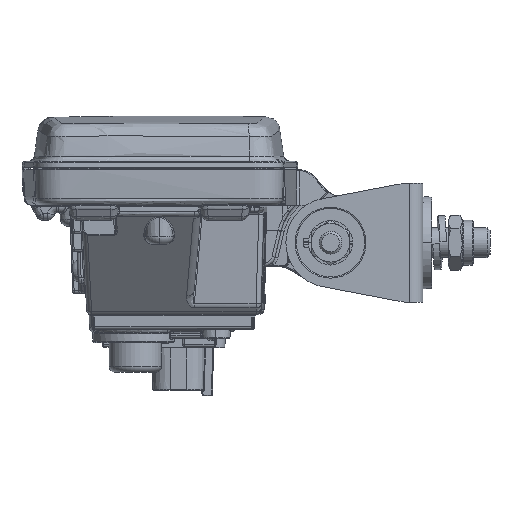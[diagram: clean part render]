
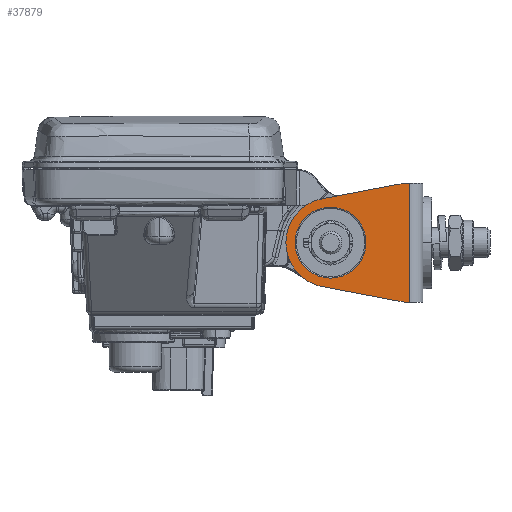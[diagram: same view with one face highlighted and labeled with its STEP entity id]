
A CAD part, left-side view. The second image highlights one B-rep face of the part: STEP entity #37879.
In plain terms, the highlighted planar face has unit normal (-1, 0, 0).
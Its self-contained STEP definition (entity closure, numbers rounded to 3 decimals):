
#37878=FACE_BOUND('',#37875,.T.) ;
#37389=VERTEX_POINT('',#37388) ;
#37396=VERTEX_POINT('',#37395) ;
#37822=VERTEX_POINT('',#37821) ;
#37824=VERTEX_POINT('',#37823) ;
#37831=VERTEX_POINT('',#37830) ;
#37838=VERTEX_POINT('',#37837) ;
#37845=VERTEX_POINT('',#37844) ;
#37852=VERTEX_POINT('',#37851) ;
#37859=VERTEX_POINT('',#37858) ;
#37819=VECTOR('Line Direction',#37818,1.) ;
#37828=VECTOR('Line Direction',#37827,1.) ;
#37849=VECTOR('Line Direction',#37848,1.) ;
#37856=VECTOR('Line Direction',#37855,1.) ;
#37863=VECTOR('Line Direction',#37862,1.) ;
#37392=DIRECTION('Axis2P3D Direction',(-1.,0.,0.)) ;
#37416=DIRECTION('Axis2P3D Direction',(-1.,-0.,0.)) ;
#37813=DIRECTION('Axis2P3D Direction',(-1.,0.,0.)) ;
#37814=DIRECTION('Axis2P3D XDirection',(0.,-1.,0.)) ;
#37818=DIRECTION('Vector Direction',(0.,1.,0.)) ;
#37827=DIRECTION('Vector Direction',(0.,-0.983,0.186)) ;
#37834=DIRECTION('Axis2P3D Direction',(-1.,0.,0.)) ;
#37841=DIRECTION('Axis2P3D Direction',(-1.,0.,0.)) ;
#37848=DIRECTION('Vector Direction',(0.,-0.983,-0.186)) ;
#37855=DIRECTION('Vector Direction',(0.,1.,0.)) ;
#37862=DIRECTION('Vector Direction',(0.,0.,1.)) ;
#37388=CARTESIAN_POINT('Vertex',(-24.,-45.6,-1.)) ;
#37391=CARTESIAN_POINT('Axis2P3D Location',(-24.,-57.5,-1.)) ;
#37395=CARTESIAN_POINT('Vertex',(-24.,-69.4,-1.)) ;
#37415=CARTESIAN_POINT('Axis2P3D Location',(-24.,-57.5,-1.)) ;
#37812=CARTESIAN_POINT('Axis2P3D Location',(-24.,-88.5,-1.)) ;
#37817=CARTESIAN_POINT('Line Origine',(-24.,-83.25,19.)) ;
#37821=CARTESIAN_POINT('Vertex',(-24.,-84.,19.)) ;
#37823=CARTESIAN_POINT('Vertex',(-24.,-82.5,19.)) ;
#37826=CARTESIAN_POINT('Line Origine',(-24.,-68.605,16.369)) ;
#37830=CARTESIAN_POINT('Vertex',(-24.,-54.709,13.738)) ;
#37833=CARTESIAN_POINT('Axis2P3D Location',(-24.,-57.5,-1.)) ;
#37837=CARTESIAN_POINT('Vertex',(-24.,-42.5,-1.)) ;
#37840=CARTESIAN_POINT('Axis2P3D Location',(-24.,-57.5,-1.)) ;
#37844=CARTESIAN_POINT('Vertex',(-24.,-54.709,-15.738)) ;
#37847=CARTESIAN_POINT('Line Origine',(-24.,-68.605,-18.369)) ;
#37851=CARTESIAN_POINT('Vertex',(-24.,-82.5,-21.)) ;
#37854=CARTESIAN_POINT('Line Origine',(-24.,-83.25,-21.)) ;
#37858=CARTESIAN_POINT('Vertex',(-24.,-84.,-21.)) ;
#37861=CARTESIAN_POINT('Line Origine',(-24.,-84.,-1.)) ;
#37393=AXIS2_PLACEMENT_3D('Circle Axis2P3D',#37391,#37392,$) ;
#37417=AXIS2_PLACEMENT_3D('Circle Axis2P3D',#37415,#37416,$) ;
#37815=AXIS2_PLACEMENT_3D('Plane Axis2P3D',#37812,#37813,#37814) ;
#37835=AXIS2_PLACEMENT_3D('Circle Axis2P3D',#37833,#37834,$) ;
#37842=AXIS2_PLACEMENT_3D('Circle Axis2P3D',#37840,#37841,$) ;
#37394=CIRCLE('generated circle',#37393,11.9) ;
#37418=CIRCLE('generated circle',#37417,11.9) ;
#37836=CIRCLE('generated circle',#37835,15.) ;
#37843=CIRCLE('generated circle',#37842,15.) ;
#37820=LINE('Line',#37817,#37819) ;
#37829=LINE('Line',#37826,#37828) ;
#37850=LINE('Line',#37847,#37849) ;
#37857=LINE('Line',#37854,#37856) ;
#37864=LINE('Line',#37861,#37863) ;
#37816=PLANE('',#37815) ;
#37397=EDGE_CURVE('',#37389,#37396,#37394,.T.) ;
#37419=EDGE_CURVE('',#37396,#37389,#37418,.T.) ;
#37825=EDGE_CURVE('',#37822,#37824,#37820,.T.) ;
#37832=EDGE_CURVE('',#37824,#37831,#37829,.F.) ;
#37839=EDGE_CURVE('',#37831,#37838,#37836,.T.) ;
#37846=EDGE_CURVE('',#37845,#37838,#37843,.F.) ;
#37853=EDGE_CURVE('',#37852,#37845,#37850,.F.) ;
#37860=EDGE_CURVE('',#37859,#37852,#37857,.T.) ;
#37865=EDGE_CURVE('',#37822,#37859,#37864,.F.) ;
#37867=ORIENTED_EDGE('',*,*,#37825,.T.) ;
#37868=ORIENTED_EDGE('',*,*,#37832,.T.) ;
#37869=ORIENTED_EDGE('',*,*,#37839,.T.) ;
#37870=ORIENTED_EDGE('',*,*,#37846,.F.) ;
#37871=ORIENTED_EDGE('',*,*,#37853,.F.) ;
#37872=ORIENTED_EDGE('',*,*,#37860,.F.) ;
#37873=ORIENTED_EDGE('',*,*,#37865,.F.) ;
#37876=ORIENTED_EDGE('',*,*,#37419,.F.) ;
#37877=ORIENTED_EDGE('',*,*,#37397,.F.) ;
#37866=EDGE_LOOP('',(#37867,#37868,#37869,#37870,#37871,#37872,#37873)) ;
#37875=EDGE_LOOP('',(#37876,#37877)) ;
#37879=ADVANCED_FACE('LED_POSTCARD_HEADLAMP__VOLVO_____',(#37874,#37878),#37816,.T.) ;
#37874=FACE_OUTER_BOUND('',#37866,.T.) ;
